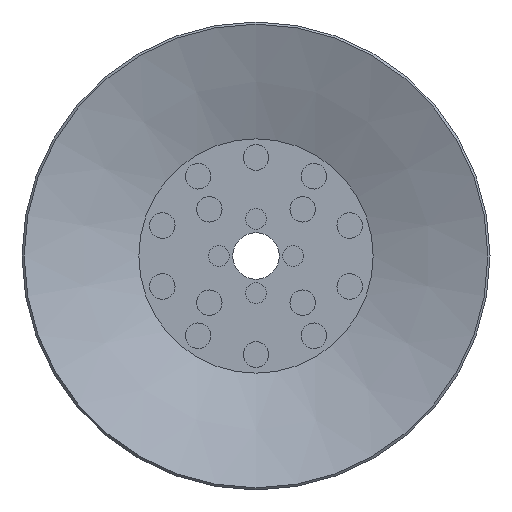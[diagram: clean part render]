
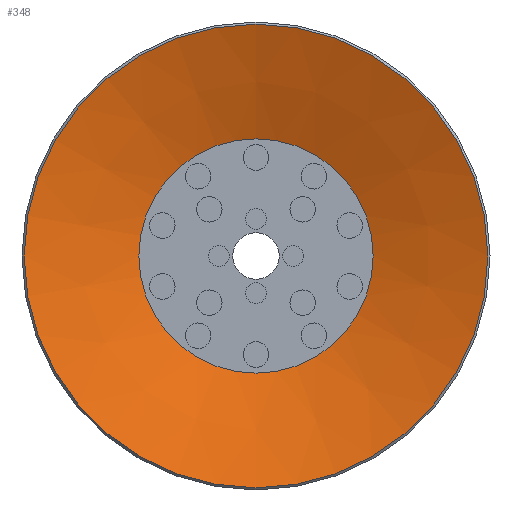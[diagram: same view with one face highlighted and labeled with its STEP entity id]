
A CAD part, front view. The second image highlights one B-rep face of the part: STEP entity #348.
In plain terms, the highlighted conical face has half-angle 70 degrees and reference radius 10 mm.
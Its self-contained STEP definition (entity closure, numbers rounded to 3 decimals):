
#348=ADVANCED_FACE('',(#570,#571),#572,.F.);
#570=FACE_BOUND('',#901,.T.);
#571=FACE_OUTER_BOUND('',#902,.T.);
#572=CONICAL_SURFACE('',#903,10.0,1.222);
#901=EDGE_LOOP('',(#1503));
#902=EDGE_LOOP('',(#1504));
#903=AXIS2_PLACEMENT_3D('',#1505,#1506,#1507);
#1503=ORIENTED_EDGE('',*,*,#1896,.T.);
#1504=ORIENTED_EDGE('',*,*,#1897,.F.);
#1505=CARTESIAN_POINT('',(0.0,0.,0.));
#1506=DIRECTION('',(0.0,0.,-1.0));
#1507=DIRECTION('',(0.0,1.0,0.));
#1896=EDGE_CURVE('',#2151,#2151,#2152,.T.);
#1897=EDGE_CURVE('',#2153,#2153,#2154,.T.);
#2151=VERTEX_POINT('',#2899);
#2152=CIRCLE('',#2900,5.055);
#2153=VERTEX_POINT('',#2901);
#2154=CIRCLE('',#2902,10.0);
#2899=CARTESIAN_POINT('',(0.0,-5.055,1.8));
#2900=AXIS2_PLACEMENT_3D('',#3183,#3184,#3185);
#2901=CARTESIAN_POINT('',(0.0,-10.0,0.));
#2902=AXIS2_PLACEMENT_3D('',#3186,#3187,#3188);
#3183=CARTESIAN_POINT('',(0.0,0.,1.8));
#3184=DIRECTION('',(0.0,0.,1.0));
#3185=DIRECTION('',(0.0,-1.0,0.));
#3186=CARTESIAN_POINT('',(0.0,0.,0.));
#3187=DIRECTION('',(0.0,0.,1.0));
#3188=DIRECTION('',(0.0,-1.0,0.));
